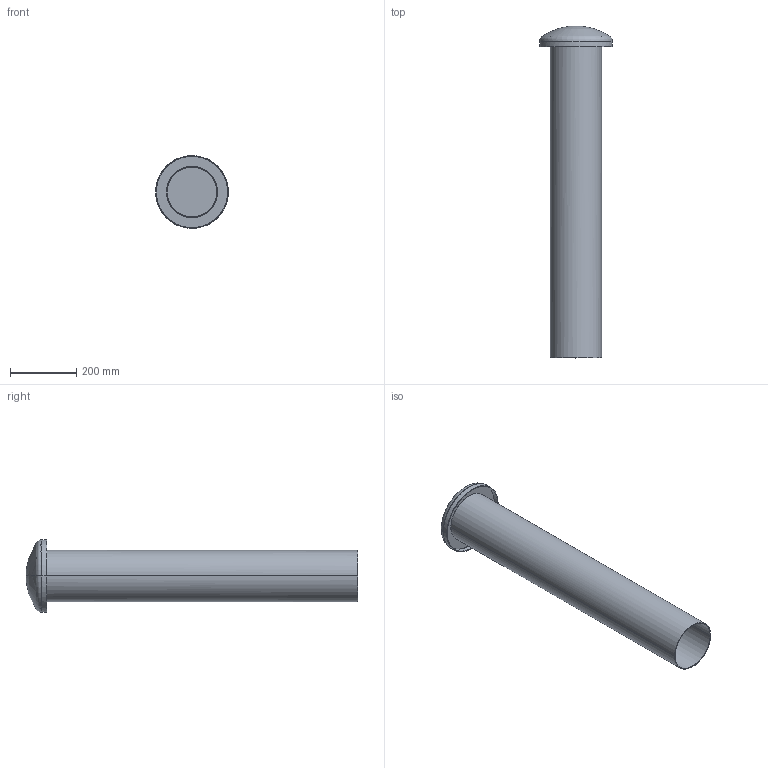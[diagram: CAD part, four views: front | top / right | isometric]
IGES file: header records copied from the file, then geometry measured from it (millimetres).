
Start section:  PTC IGES file: 017_000119.igs
Global section: file name: 017_000119.igs; native system: Creo Parametric by PTC Inc.; preprocessor: 2022162; author: wep; organization: Unknown; date: 20230831.064808; units: millimetre
Bounding box: 219 x 1000 x 218.97 mm (x, y, z)
Surface area: 1096550.6 mm2 (no closed solid volume)
Topology: 0 solids, 0 shells, 21 faces, 80 edges, 76 vertices
Faces by surface type: revolution 16, bspline 5
